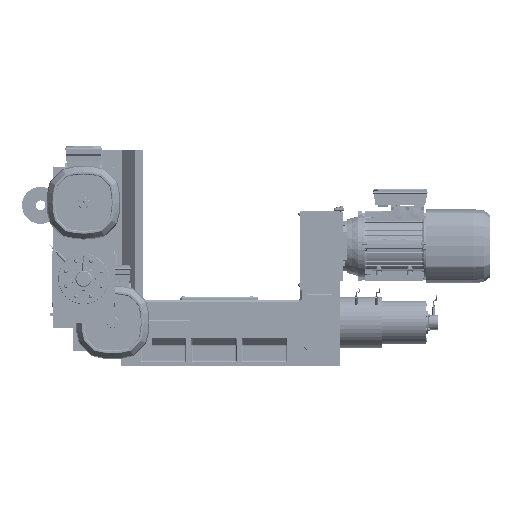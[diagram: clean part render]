
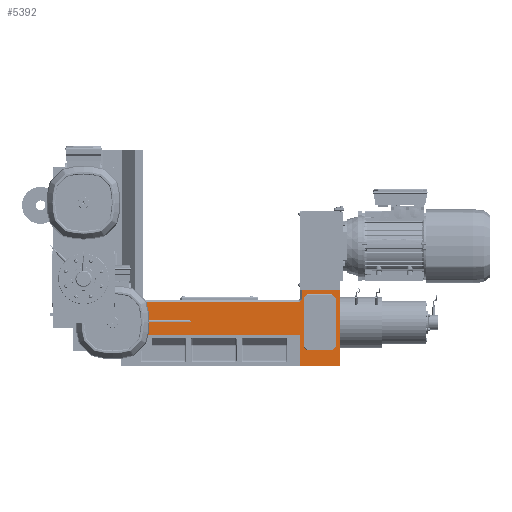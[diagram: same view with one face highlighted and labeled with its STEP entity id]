
A CAD part, left-side view. The second image highlights one B-rep face of the part: STEP entity #5392.
In plain terms, the highlighted planar face has unit normal (-1, 0, 0) as drawn and (0, 1, 0) by its records, which use the part's own axes.
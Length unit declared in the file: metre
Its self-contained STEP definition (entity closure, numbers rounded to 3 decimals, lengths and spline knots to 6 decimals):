
#5392 = ADVANCED_FACE( '', ( #10481 ), #10482, .T. );
#10481 = FACE_OUTER_BOUND( '', #21597, .T. );
#10482 = PLANE( '', #21598 );
#21597 = EDGE_LOOP( '', ( #39496, #39497, #39498, #39499, #39500, #39501, #39502, #39503, #39504 ) );
#21598 = AXIS2_PLACEMENT_3D( '', #39505, #39506, #39507 );
#39496 = ORIENTED_EDGE( '', *, *, #50178, .T. );
#39497 = ORIENTED_EDGE( '', *, *, #50188, .T. );
#39498 = ORIENTED_EDGE( '', *, *, #50189, .T. );
#39499 = ORIENTED_EDGE( '', *, *, #50190, .T. );
#39500 = ORIENTED_EDGE( '', *, *, #50191, .F. );
#39501 = ORIENTED_EDGE( '', *, *, #50192, .F. );
#39502 = ORIENTED_EDGE( '', *, *, #50193, .F. );
#39503 = ORIENTED_EDGE( '', *, *, #50130, .F. );
#39504 = ORIENTED_EDGE( '', *, *, #50148, .T. );
#39505 = CARTESIAN_POINT( '', ( -0.6225, 0.176111, 0. ) );
#39506 = DIRECTION( '', ( 0., 1., 0. ) );
#39507 = DIRECTION( '', ( 0., 0., 1. ) );
#50130 = EDGE_CURVE( '', #59740, #59742, #59743, .T. );
#50148 = EDGE_CURVE( '', #59740, #59773, #59775, .T. );
#50178 = EDGE_CURVE( '', #59773, #59824, #59826, .T. );
#50188 = EDGE_CURVE( '', #59824, #59838, #59839, .T. );
#50189 = EDGE_CURVE( '', #59838, #59840, #59841, .T. );
#50190 = EDGE_CURVE( '', #59840, #59842, #59843, .T. );
#50191 = EDGE_CURVE( '', #59844, #59842, #59845, .T. );
#50192 = EDGE_CURVE( '', #59846, #59844, #59847, .T. );
#50193 = EDGE_CURVE( '', #59742, #59846, #59848, .T. );
#59740 = VERTEX_POINT( '', #81722 );
#59742 = VERTEX_POINT( '', #81725 );
#59743 = LINE( '', #81726, #81727 );
#59773 = VERTEX_POINT( '', #81769 );
#59775 = LINE( '', #81772, #81773 );
#59824 = VERTEX_POINT( '', #81847 );
#59826 = LINE( '', #81850, #81851 );
#59838 = VERTEX_POINT( '', #81868 );
#59839 = LINE( '', #81869, #81870 );
#59840 = VERTEX_POINT( '', #81871 );
#59841 = LINE( '', #81872, #81873 );
#59842 = VERTEX_POINT( '', #81874 );
#59843 = LINE( '', #81875, #81876 );
#59844 = VERTEX_POINT( '', #81877 );
#59845 = LINE( '', #81878, #81879 );
#59846 = VERTEX_POINT( '', #81880 );
#59847 = CIRCLE( '', #81881, 0.011 );
#59848 = LINE( '', #81882, #81883 );
#81722 = CARTESIAN_POINT( '', ( 0.005, 0.176111, 0.091 ) );
#81725 = CARTESIAN_POINT( '', ( 0.005, 0.176111, 0.188 ) );
#81726 = CARTESIAN_POINT( '', ( 0.005, 0.176111, 0. ) );
#81727 = VECTOR( '', #93408, 1. );
#81769 = CARTESIAN_POINT( '', ( -0.505, 0.176111, 0.091 ) );
#81772 = CARTESIAN_POINT( '', ( -0.56375, 0.176111, 0.091 ) );
#81773 = VECTOR( '', #93434, 1. );
#81847 = CARTESIAN_POINT( '', ( -0.505, 0.176111, 0. ) );
#81850 = CARTESIAN_POINT( '', ( -0.505, 0.176111, 0. ) );
#81851 = VECTOR( '', #93470, 1. );
#81868 = CARTESIAN_POINT( '', ( -0.6225, 0.176111, 0. ) );
#81869 = CARTESIAN_POINT( '', ( 0.005, 0.176111, 0. ) );
#81870 = VECTOR( '', #93488, 1. );
#81871 = CARTESIAN_POINT( '', ( -0.6225, 0.176111, 0.224 ) );
#81872 = CARTESIAN_POINT( '', ( -0.6225, 0.176111, 0. ) );
#81873 = VECTOR( '', #93489, 1. );
#81874 = CARTESIAN_POINT( '', ( -0.5095, 0.176111, 0.224 ) );
#81875 = CARTESIAN_POINT( '', ( 0.005, 0.176111, 0.224 ) );
#81876 = VECTOR( '', #93490, 1. );
#81877 = CARTESIAN_POINT( '', ( -0.5095, 0.176111, 0.199 ) );
#81878 = CARTESIAN_POINT( '', ( -0.5095, 0.176111, 0.112 ) );
#81879 = VECTOR( '', #93491, 1. );
#81880 = CARTESIAN_POINT( '', ( -0.4985, 0.176111, 0.188 ) );
#81881 = AXIS2_PLACEMENT_3D( '', #93492, #93493, #93494 );
#81882 = CARTESIAN_POINT( '', ( -0.435875, 0.176111, 0.188 ) );
#81883 = VECTOR( '', #93495, 1. );
#93408 = DIRECTION( '', ( 0., 0., 1. ) );
#93434 = DIRECTION( '', ( -1., 0., 0. ) );
#93470 = DIRECTION( '', ( 0., 0., -1. ) );
#93488 = DIRECTION( '', ( -1., 0., 0. ) );
#93489 = DIRECTION( '', ( 0., 0., 1. ) );
#93490 = DIRECTION( '', ( 1., 0., 0. ) );
#93491 = DIRECTION( '', ( 0., 0., 1. ) );
#93492 = CARTESIAN_POINT( '', ( -0.4985, 0.176111, 0.199 ) );
#93493 = DIRECTION( '', ( 0., 1., 0. ) );
#93494 = DIRECTION( '', ( -0.707, 0., -0.707 ) );
#93495 = DIRECTION( '', ( -1., 0., 0. ) );
